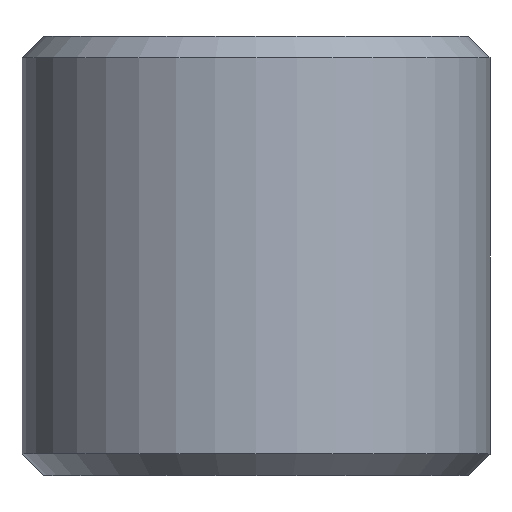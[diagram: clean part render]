
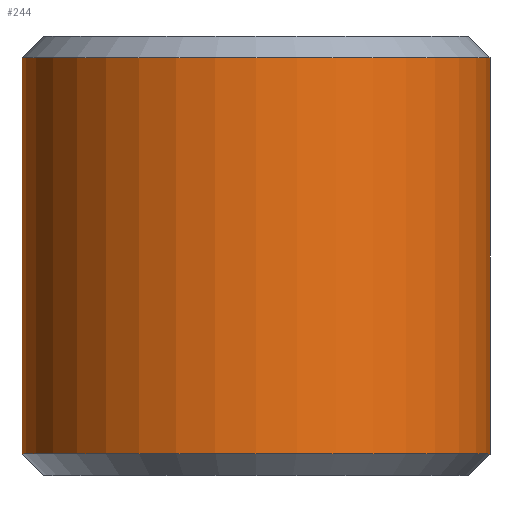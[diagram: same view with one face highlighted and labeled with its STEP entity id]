
A CAD part, top view. The second image highlights one B-rep face of the part: STEP entity #244.
In plain terms, the highlighted cylindrical face has radius 3.914 mm (diameter 7.828 mm), a full revolution.
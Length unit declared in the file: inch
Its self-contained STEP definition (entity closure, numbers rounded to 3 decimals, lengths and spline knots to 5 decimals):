
#16=CYLINDRICAL_SURFACE('',#274,0.1541);
#18=CIRCLE('',#272,0.1541);
#19=CIRCLE('',#273,0.1541);
#20=CIRCLE('',#275,0.1541);
#21=CIRCLE('',#276,0.1541);
#34=FACE_OUTER_BOUND('',#47,.T.);
#47=EDGE_LOOP('',(#193,#194,#195,#196,#197,#198));
#67=LINE('',#425,#83);
#83=VECTOR('',#321,0.156);
#117=VERTEX_POINT('',#418);
#118=VERTEX_POINT('',#420);
#119=VERTEX_POINT('',#424);
#120=VERTEX_POINT('',#426);
#149=EDGE_CURVE('',#117,#118,#18,.F.);
#150=EDGE_CURVE('',#118,#117,#19,.F.);
#151=EDGE_CURVE('',#118,#119,#67,.T.);
#152=EDGE_CURVE('',#120,#119,#20,.F.);
#153=EDGE_CURVE('',#119,#120,#21,.F.);
#193=ORIENTED_EDGE('',*,*,#150,.F.);
#194=ORIENTED_EDGE('',*,*,#151,.T.);
#195=ORIENTED_EDGE('',*,*,#152,.F.);
#196=ORIENTED_EDGE('',*,*,#153,.F.);
#197=ORIENTED_EDGE('',*,*,#151,.F.);
#198=ORIENTED_EDGE('',*,*,#149,.F.);
#244=ADVANCED_FACE('',(#34),#16,.T.);
#272=AXIS2_PLACEMENT_3D('',#421,#315,#316);
#273=AXIS2_PLACEMENT_3D('',#422,#317,#318);
#274=AXIS2_PLACEMENT_3D('',#423,#319,#320);
#275=AXIS2_PLACEMENT_3D('',#427,#322,#323);
#276=AXIS2_PLACEMENT_3D('',#428,#324,#325);
#315=DIRECTION('center_axis',(0.,1.,0.));
#316=DIRECTION('ref_axis',(0.,0.,-1.));
#317=DIRECTION('center_axis',(0.,1.,0.));
#318=DIRECTION('ref_axis',(0.,0.,-1.));
#319=DIRECTION('center_axis',(0.,-1.,0.));
#320=DIRECTION('ref_axis',(0.,0.,-1.));
#321=DIRECTION('',(0.,1.,0.));
#322=DIRECTION('center_axis',(0.,-1.,0.));
#323=DIRECTION('ref_axis',(0.,0.,-1.));
#324=DIRECTION('center_axis',(0.,-1.,0.));
#325=DIRECTION('ref_axis',(0.,0.,-1.));
#418=CARTESIAN_POINT('',(0.,0.0141,-0.1541));
#420=CARTESIAN_POINT('',(0.,0.0141,0.1541));
#421=CARTESIAN_POINT('Origin',(0.,0.0141,0.));
#422=CARTESIAN_POINT('Origin',(0.,0.0141,0.));
#423=CARTESIAN_POINT('Origin',(0.,0.1445,0.));
#424=CARTESIAN_POINT('',(0.,0.2749,0.1541));
#425=CARTESIAN_POINT('',(0.,0.1445,0.1541));
#426=CARTESIAN_POINT('',(0.,0.2749,-0.1541));
#427=CARTESIAN_POINT('Origin',(0.,0.2749,0.));
#428=CARTESIAN_POINT('Origin',(0.,0.2749,0.));
